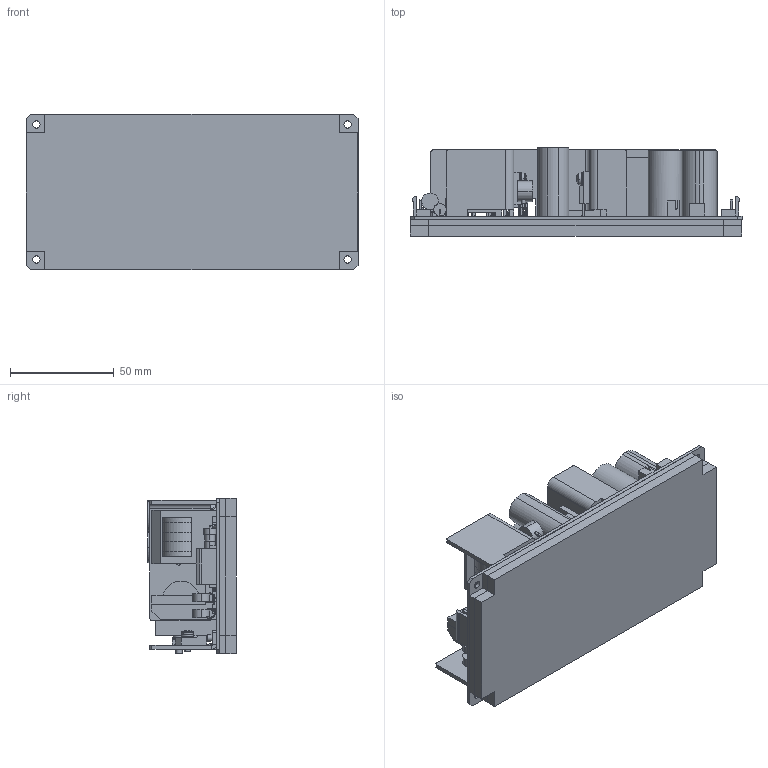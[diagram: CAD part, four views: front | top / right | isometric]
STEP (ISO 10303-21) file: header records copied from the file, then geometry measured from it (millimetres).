
FILE_DESCRIPTION (( 'STEP AP214' ), '1' );
FILE_NAME ('zws150baf_outline.STEP', '2010-09-30T07:08:09', ( 'N08-D081' ), ( 'TDK-Lambda' ), 'SwSTEP 2.0', 'SolidWorks 2010', '' );
FILE_SCHEMA (( 'AUTOMOTIVE_DESIGN' ));
Length unit declared in the file: millimetre
Products named in the file (1): zws150baf_outline
Bounding box: 160 x 42.6 x 75 mm (x, y, z)
Volume: 236611.8 mm3; surface area: 104420 mm2
Topology: 2 solids, 2 shells, 1535 faces, 4008 edges, 2543 vertices
Faces by surface type: plane 1049, cylinder 316, cone 88, torus 66, sphere 16
Entity records: 63964 total; most frequent: CARTESIAN_POINT 8537, DIRECTION 8067, ORIENTED_EDGE 7984, EDGE_CURVE 3992, LINE 2737, VECTOR 2737, AXIS2_PLACEMENT_3D 2665, VERTEX_POINT 2543
